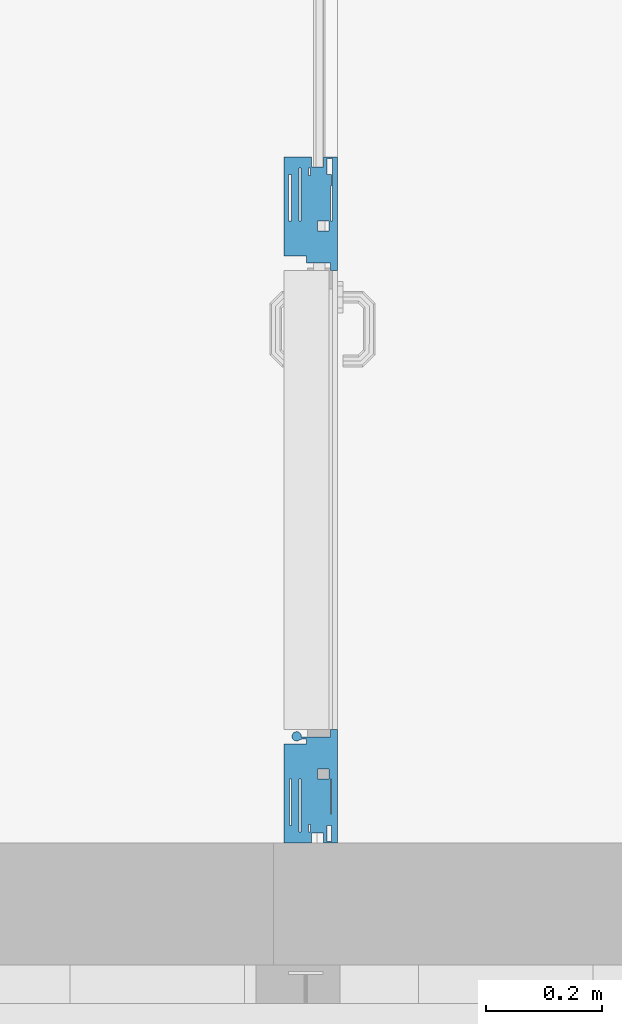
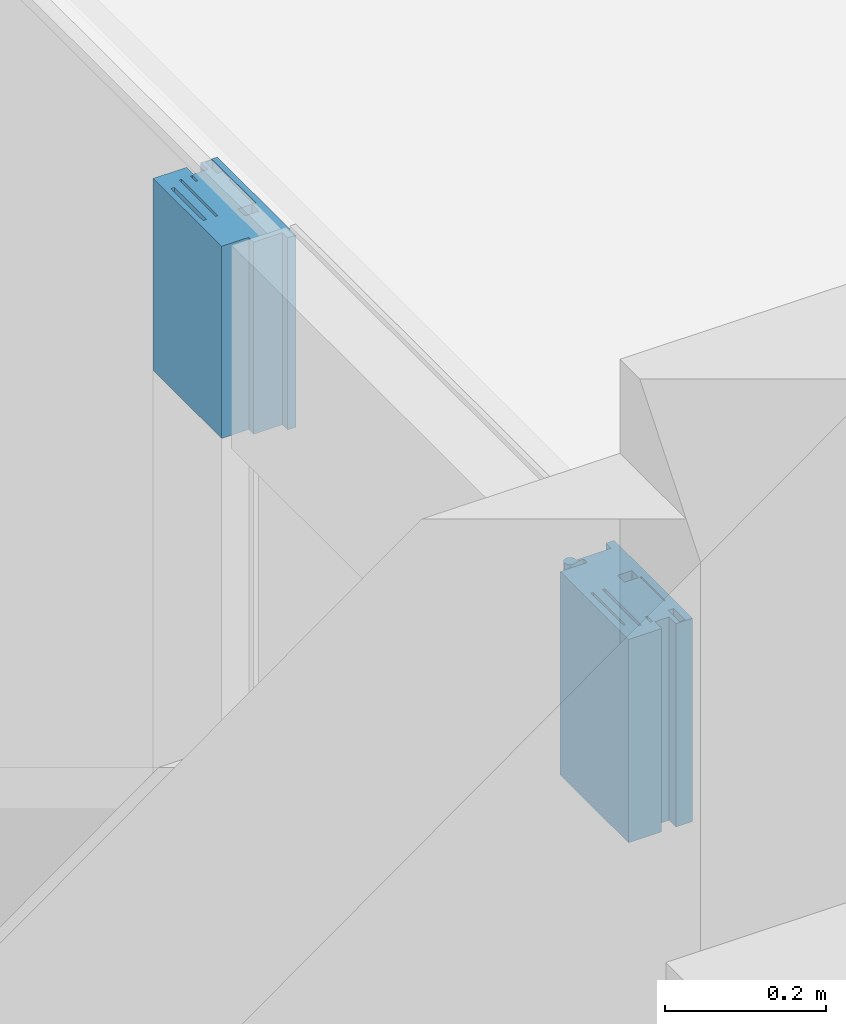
# One storey, part 14 of 79: 2 members, 1 element without a shape of its own.
"""IFC2X3 building model written with IfcOpenShell, lengths in millimetres."""

from ifc_helpers import new_model, entity, si_unit, converted_unit, derived_unit, money_unit, direction, frame, origin_with_axes, place, context, subcontext, project, spatial, faceted_brep, source, transform, mapped, material, material_list, type_object, element, aggregate, save


model = new_model("IFC2X3")

# Units and contexts
model_context = context("Model", 3, precision=0.01, world=origin_with_axes(), true_north=direction((0.0, 1.0)))
body_context = subcontext(model_context, "Body", "Model", "MODEL_VIEW")
ifc_project = project(units=[si_unit("LENGTHUNIT", "METRE", prefix="MILLI"), si_unit("AREAUNIT", "SQUARE_METRE"), si_unit("VOLUMEUNIT", "CUBIC_METRE"), converted_unit("PLANEANGLEUNIT", "DEGREE", entity("IfcPlaneAngleMeasure", 0.0174532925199), si_unit("PLANEANGLEUNIT", "RADIAN"), dimensions=[0, 0, 0, 0, 0, 0, 0]), si_unit("SOLIDANGLEUNIT", "STERADIAN"), money_unit("EUR"), converted_unit("TIMEUNIT", "Year", entity("IfcTimeMeasure", 31556926.0), si_unit("TIMEUNIT", "SECOND"), dimensions=[0, 0, 1, 0, 0, 0, 0]), si_unit("MASSUNIT", "GRAM", prefix="KILO"), si_unit("THERMODYNAMICTEMPERATUREUNIT", "DEGREE_CELSIUS"), si_unit("LUMINOUSINTENSITYUNIT", "LUMEN"), si_unit("ENERGYUNIT", "JOULE", prefix="MEGA"), derived_unit("THERMALCONDUCTANCEUNIT", [(si_unit("POWERUNIT", "WATT"), 1), (si_unit("LENGTHUNIT", "METRE"), -1), (si_unit("THERMODYNAMICTEMPERATUREUNIT", "KELVIN"), -1)]), derived_unit("SPECIFICHEATCAPACITYUNIT", [(si_unit("ENERGYUNIT", "JOULE"), 1), (si_unit("MASSUNIT", "GRAM", prefix="KILO"), -1), (si_unit("THERMODYNAMICTEMPERATUREUNIT", "KELVIN"), -1)]), derived_unit("MASSDENSITYUNIT", [(si_unit("MASSUNIT", "GRAM", prefix="KILO"), 1), (si_unit("VOLUMEUNIT", "CUBIC_METRE"), -1)])], contexts=[model_context])

# Site, building, storey
site_placement = place(None, origin_with_axes())
site = spatial("IfcSite", under=ifc_project, at=site_placement, Name="L.Koidula tn 11b", CompositionType="ELEMENT")
building_placement = place(site_placement, origin_with_axes())
building = spatial("IfcBuilding", under=site, at=building_placement, Name="Rakvere Riigigümnaasium", CompositionType="ELEMENT")
storey_placement = place(building_placement, frame((0.0, 0.0, 3720.0), z_axis=(0.0, 0.0, 1.0), x_axis=(1.0, 0.0, 0.0)))
storey = spatial("IfcBuildingStorey", under=building, at=storey_placement, Name="2.korrus +3,72", CompositionType="ELEMENT", Elevation=3720.0)

# Curtain wall, members
curtain_wall_type = type_object("IfcCurtainWallType", Name="Curtain Wall Type", PredefinedType="NOTDEFINED")
curtain_wall_placement = place(storey_placement, frame((41130.915445, 17840.4555248, 2.4134225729e-05), z_axis=(0.0, 0.0, 1.0), x_axis=(1.0, 0.0, 0.0)))
curtain_wall = element("IfcCurtainWall", 1, at=curtain_wall_placement, inside=storey, type_object=curtain_wall_type, Name="SKLF-12")
ifc_material_1 = material(Name="Puit")
ifc_material_2 = material(Name="Klaasvill")
ifc_material_3 = material(Name="MDF")
ifc_material_4 = material(Name="Alumiiniumprofiil")
ifc_material_5 = material(Name="Teras")
ifc_material_list_1 = material_list([ifc_material_1, ifc_material_2, ifc_material_3, ifc_material_4, ifc_material_5])
member_type_1 = type_object("IfcMemberType", Name="Siseklaasfassaad - Ukseraam hing- klaasita-2 195 x 29", PredefinedType="MULLION")
shared_shape_1 = source(origin_with_axes(), body_context, "Body", "Brep", [
    faceted_brep([(139.859682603, -15.116905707, 0.0), (181.717061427, -15.116905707, 0.0), (181.717061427, -15.116905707, 308.0), (139.859682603, -15.116905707, 308.0), (139.859682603, 50.9999990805, 0.0), (169.859682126, 50.9999990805, 0.0), (169.859683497, 23.9999989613, 0.0), (178.395629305, 23.9999989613, 0.0), (178.395629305, -8.00000062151, 0.0), (181.855103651, -8.00000062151, 0.0), (181.855103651, -15.116905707, 0.0), (181.855103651, -15.116905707, 308.0), (181.855103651, -8.00000062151, 308.0), (178.395629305, -8.00000062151, 308.0), (178.395629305, 23.9999989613, 308.0), (169.859683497, 23.9999989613, 308.0), (169.859682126, 50.9999990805, 308.0), (139.859682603, 50.9999990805, 308.0)], [[[0, 1, 2, 3]], [[0, 4, 5, 6, 7, 8, 9, 10, 1]], [[1, 10, 11, 2]], [[3, 2, 11, 12, 13, 14, 15, 16, 17]], [[4, 0, 3, 17]], [[5, 4, 17, 16]], [[6, 5, 16, 15]], [[7, 6, 15, 14]], [[8, 7, 14, 13]], [[9, 8, 13, 12]], [[10, 9, 12, 11]]]),
    faceted_brep([(31.9999999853, 20.4981590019, 0.0), (31.9999999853, 17.3999984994, 0.0), (31.9999999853, 17.3999984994, 308.0), (31.9999999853, 20.4981590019, 308.0), (109.856776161, 20.498157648, 0.0), (109.856777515, 5.39999855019, 0.0), (109.856777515, -15.0000008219, 0.0), (109.856777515, -16.9999999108, 0.0), (50.0000012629, -17.0000026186, 0.0), (31.9999999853, -16.9999999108, 0.0), (31.9999999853, -10.9998686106, 0.0), (31.9999999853, -4.99999996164, 0.0), (31.9999999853, -4.99999996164, 308.0), (31.9999999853, -10.9998686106, 308.0), (31.9999999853, -16.9999999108, 308.0), (50.0000012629, -17.0000026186, 308.0), (109.856777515, -16.9999999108, 308.0), (109.856777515, -15.0000008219, 308.0), (109.856777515, 5.39999855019, 308.0), (109.856776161, 20.498157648, 308.0)], [[[0, 1, 2, 3]], [[0, 4, 5, 6, 7, 8, 9, 10, 11, 1]], [[1, 11, 12, 2]], [[3, 2, 12, 13, 14, 15, 16, 17, 18, 19]], [[4, 0, 3, 19]], [[5, 4, 19, 18]], [[6, 5, 18, 17]], [[7, 6, 17, 16]], [[8, 7, 16, 15]], [[9, 8, 15, 14]], [[10, 9, 14, 13]], [[11, 10, 13, 12]]]),
    faceted_brep([(2.00000016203, -18.9999768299, 0.0), (2.00000016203, -28.9999775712, 0.0), (2.00000016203, -28.9999775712, 308.0), (2.00000016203, -18.9999768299, 308.0), (29.9999993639, -18.9999998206, 0.0), (31.9999995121, -18.9999998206, 0.0), (50.0000008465, -18.9999998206, 0.0), (109.856776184, -18.9999797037, 0.0), (192.859682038, -18.9999768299, 0.0), (192.859682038, -28.9999775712, 0.0), (192.859682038, -28.9999775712, 308.0), (192.859682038, -18.9999768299, 308.0), (109.856776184, -18.9999797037, 308.0), (50.0000008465, -18.9999998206, 308.0), (31.9999995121, -18.9999998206, 308.0), (29.9999993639, -18.9999998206, 308.0)], [[[0, 1, 2, 3]], [[0, 4, 5, 6, 7, 8, 9, 1]], [[1, 9, 10, 2]], [[3, 2, 10, 11, 12, 13, 14, 15]], [[4, 0, 3, 15]], [[5, 4, 15, 14]], [[6, 5, 14, 13]], [[7, 6, 13, 12]], [[8, 7, 12, 11]], [[9, 8, 11, 10]]]),
    faceted_brep([(167.859682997, 63.0000007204, 0.0), (1.99999972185, 62.9999978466, 0.0), (1.99999972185, 62.9999978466, 308.0), (167.859682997, 63.0000007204, 308.0), (167.859682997, 52.9999999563, 0.0), (139.859683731, 52.9999999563, 0.0), (109.85677599, 52.9999999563, 0.0), (29.9999989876, 52.9999970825, 0.0), (18.6712801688, 52.9999970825, 0.0), (1.99999972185, 52.9999999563, 0.0), (1.99999972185, 52.9999999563, 308.0), (18.6712801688, 52.9999970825, 308.0), (29.9999989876, 52.9999970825, 308.0), (109.85677599, 52.9999999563, 308.0), (139.859683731, 52.9999999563, 308.0), (167.859682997, 52.9999999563, 308.0)], [[[0, 1, 2, 3]], [[0, 4, 5, 6, 7, 8, 9, 1]], [[1, 9, 10, 2]], [[3, 2, 10, 11, 12, 13, 14, 15]], [[4, 0, 3, 15]], [[5, 4, 15, 14]], [[6, 5, 14, 13]], [[7, 6, 13, 12]], [[8, 7, 12, 11]], [[9, 8, 11, 10]]]),
    faceted_brep([(18.9999998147, 33.492630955, 0.0), (18.9999998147, 20.5001075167, 0.0), (18.9999998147, 20.5001075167, 308.0), (18.9999998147, 33.492630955, 308.0), (109.856776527, 33.4906812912, 0.0), (109.856776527, 20.4981578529, 0.0), (31.9999999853, 20.4981590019, 0.0), (31.9999999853, 20.4981590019, 308.0), (109.856776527, 20.4981578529, 308.0), (109.856776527, 33.4906812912, 308.0)], [[[0, 1, 2, 3]], [[0, 4, 5, 6, 1]], [[1, 6, 7, 2]], [[3, 2, 7, 8, 9]], [[4, 0, 3, 9]], [[5, 4, 9, 8]], [[6, 5, 8, 7]]]),
    faceted_brep([(109.854989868, 49.9999988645, 0.0), (19.0000000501, 50.0001085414, 0.0), (19.0000000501, 50.0001085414, 308.0), (109.854989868, 49.9999988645, 308.0), (109.854989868, 36.9999990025, 0.0), (19.0000000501, 37.0001070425, 0.0), (19.0000000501, 37.0001070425, 308.0), (109.854989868, 36.9999990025, 308.0)], [[[0, 1, 2, 3]], [[0, 4, 5, 1]], [[1, 5, 6, 2]], [[3, 2, 6, 7]], [[4, 0, 3, 7]], [[5, 4, 7, 6]]]),
    faceted_brep([(109.856776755, 52.9999991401, 0.0), (109.854989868, 49.9999988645, 0.0), (109.854989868, 49.9999988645, 308.0), (109.856776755, 52.9999991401, 308.0), (139.859682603, 52.9999991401, 0.0), (167.859682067, 52.9999991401, 0.0), (167.859682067, 62.9999994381, 0.0), (169.859682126, 62.9999994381, 0.0), (169.859682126, 54.9999991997, 0.0), (169.859682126, 50.9999990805, 0.0), (139.859682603, 50.9999990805, 0.0), (139.859682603, -15.116905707, 0.0), (181.717061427, -15.116905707, 0.0), (181.717061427, -17.0000002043, 0.0), (194.859682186, -17.0000002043, 0.0), (194.859682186, -20.0740464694, 0.0), (194.859682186, -29.0000005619, 0.0), (192.859683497, -29.0000005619, 0.0), (192.859683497, -18.9999783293, 0.0), (109.856776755, -18.9999783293, 0.0), (109.856777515, -16.9999999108, 0.0), (109.856776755, -15.0000001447, 0.0), (126.859682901, -15.0000001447, 0.0), (126.859682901, 5.39999991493, 0.0), (109.856776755, 5.39999991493, 0.0), (109.856776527, 20.4981578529, 0.0), (109.856776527, 33.4906812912, 0.0), (109.854989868, 36.9999990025, 0.0), (109.854989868, 36.9999990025, 308.0), (109.856776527, 33.4906812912, 308.0), (109.856776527, 20.4981578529, 308.0), (109.856776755, 5.39999991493, 308.0), (126.859682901, 5.39999991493, 308.0), (126.859682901, -15.0000001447, 308.0), (109.856776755, -15.0000001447, 308.0), (109.856777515, -16.9999999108, 308.0), (109.856776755, -18.9999783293, 308.0), (192.859683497, -18.9999783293, 308.0), (192.859683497, -29.0000005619, 308.0), (194.859682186, -29.0000005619, 308.0), (194.859682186, -20.0740464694, 308.0), (194.859682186, -17.0000002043, 308.0), (181.717061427, -17.0000002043, 308.0), (181.717061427, -15.116905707, 308.0), (139.859682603, -15.116905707, 308.0), (139.859682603, 50.9999990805, 308.0), (169.859682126, 50.9999990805, 308.0), (169.859682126, 54.9999991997, 308.0), (169.859682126, 62.9999994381, 308.0), (167.859682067, 62.9999994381, 308.0), (167.859682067, 52.9999991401, 308.0), (139.859682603, 52.9999991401, 308.0)], [[[0, 1, 2, 3]], [[0, 4, 5, 6, 7, 8, 9, 10, 11, 12, 13, 14, 15, 16, 17, 18, 19, 20, 21, 22, 23, 24, 25, 26, 27, 1]], [[1, 27, 28, 2]], [[3, 2, 28, 29, 30, 31, 32, 33, 34, 35, 36, 37, 38, 39, 40, 41, 42, 43, 44, 45, 46, 47, 48, 49, 50, 51]], [[4, 0, 3, 51]], [[5, 4, 51, 50]], [[6, 5, 50, 49]], [[7, 6, 49, 48]], [[8, 7, 48, 47]], [[9, 8, 47, 46]], [[10, 9, 46, 45]], [[11, 10, 45, 44]], [[12, 11, 44, 43]], [[13, 12, 43, 42]], [[14, 13, 42, 41]], [[15, 14, 41, 40]], [[16, 15, 40, 39]], [[17, 16, 39, 38]], [[18, 17, 38, 37]], [[19, 18, 37, 36]], [[20, 19, 36, 35]], [[21, 20, 35, 34]], [[22, 21, 34, 33]], [[23, 22, 33, 32]], [[24, 23, 32, 31]], [[25, 24, 31, 30]], [[26, 25, 30, 29]], [[27, 26, 29, 28]]]),
    faceted_brep([(0.0, 62.9999994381, 0.0), (0.0, 15.3999992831, 0.0), (0.0, 15.3999992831, 308.0), (0.0, 62.9999994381, 308.0), (1.99999958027, 62.9999994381, 0.0), (2.00000095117, 52.999998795, 0.0), (18.6712817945, 52.999998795, 0.0), (29.9999991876, 52.999998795, 0.0), (29.9999991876, 50.0001084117, 0.0), (19.0000008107, 50.0001084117, 0.0), (19.0000000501, 37.0001070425, 0.0), (18.9999998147, 33.492630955, 0.0), (18.9999998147, 20.5001075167, 0.0), (19.0000008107, 17.3999988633, 0.0), (32.0000001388, 17.3999988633, 0.0), (32.0000001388, -5.0, 0.0), (32.0000001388, -10.9998685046, 0.0), (32.0000001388, -17.0000015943, 0.0), (50.0000004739, -17.0000015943, 0.0), (50.0000004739, -18.9999998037, 0.0), (32.0000001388, -18.9999998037, 0.0), (30.0000005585, -18.9999998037, 0.0), (30.0000005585, -17.0000015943, 0.0), (30.0000005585, -10.9998685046, 0.0), (2.00000095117, -10.9998685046, 0.0), (2.00000016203, -18.9999768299, 0.0), (2.00000095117, -28.9999785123, 0.0), (0.0, -28.9999785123, 0.0), (0.0, -5.0, 0.0), (2.00000095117, -5.0, 0.0), (16.9999998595, -5.0, 0.0), (16.9999998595, 15.3999992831, 0.0), (16.9999998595, 15.3999992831, 308.0), (16.9999998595, -5.0, 308.0), (2.00000095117, -5.0, 308.0), (0.0, -5.0, 308.0), (0.0, -28.9999785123, 308.0), (2.00000095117, -28.9999785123, 308.0), (2.00000016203, -18.9999768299, 308.0), (2.00000095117, -10.9998685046, 308.0), (30.0000005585, -10.9998685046, 308.0), (30.0000005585, -17.0000015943, 308.0), (30.0000005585, -18.9999998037, 308.0), (32.0000001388, -18.9999998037, 308.0), (50.0000004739, -18.9999998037, 308.0), (50.0000004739, -17.0000015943, 308.0), (32.0000001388, -17.0000015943, 308.0), (32.0000001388, -10.9998685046, 308.0), (32.0000001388, -5.0, 308.0), (32.0000001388, 17.3999988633, 308.0), (19.0000008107, 17.3999988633, 308.0), (18.9999998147, 20.5001075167, 308.0), (18.9999998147, 33.492630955, 308.0), (19.0000000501, 37.0001070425, 308.0), (19.0000008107, 50.0001084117, 308.0), (29.9999991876, 50.0001084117, 308.0), (29.9999991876, 52.999998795, 308.0), (18.6712817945, 52.999998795, 308.0), (2.00000095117, 52.999998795, 308.0), (1.99999958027, 62.9999994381, 308.0)], [[[0, 1, 2, 3]], [[0, 4, 5, 6, 7, 8, 9, 10, 11, 12, 13, 14, 15, 16, 17, 18, 19, 20, 21, 22, 23, 24, 25, 26, 27, 28, 29, 30, 31, 1]], [[1, 31, 32, 2]], [[3, 2, 32, 33, 34, 35, 36, 37, 38, 39, 40, 41, 42, 43, 44, 45, 46, 47, 48, 49, 50, 51, 52, 53, 54, 55, 56, 57, 58, 59]], [[4, 0, 3, 59]], [[5, 4, 59, 58]], [[6, 5, 58, 57]], [[7, 6, 57, 56]], [[8, 7, 56, 55]], [[9, 8, 55, 54]], [[10, 9, 54, 53]], [[11, 10, 53, 52]], [[12, 11, 52, 51]], [[13, 12, 51, 50]], [[14, 13, 50, 49]], [[15, 14, 49, 48]], [[16, 15, 48, 47]], [[17, 16, 47, 46]], [[18, 17, 46, 45]], [[19, 18, 45, 44]], [[20, 19, 44, 43]], [[21, 20, 43, 42]], [[22, 21, 42, 41]], [[23, 22, 41, 40]], [[24, 23, 40, 39]], [[25, 24, 39, 38]], [[26, 25, 38, 37]], [[27, 26, 37, 36]], [[28, 27, 36, 35]], [[29, 28, 35, 34]], [[30, 29, 34, 33]], [[31, 30, 33, 32]]]),
    faceted_brep([(191.287294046, 42.0314837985, 0.0), (189.304437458, 46.4929115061, 0.0), (189.304437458, 46.4929115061, 308.0), (191.287294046, 42.0314837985, 308.0), (191.287294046, 39.5529134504, 0.0), (190.543723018, 37.0712444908, 0.0), (188.808723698, 35.0883879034, 0.0), (186.82586711, 33.6012450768, 0.0), (184.34729599, 32.8576740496, 0.0), (181.86562703, 33.1055313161, 0.0), (181.658588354, 33.5817206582, 0.0), (181.86562703, 32.1141030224, 0.0), (181.855103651, -8.00000062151, 0.0), (178.395628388, -8.00000056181, 0.0), (178.395629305, 23.9999989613, 0.0), (178.395628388, 31.1195761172, 0.0), (178.147771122, 33.1055313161, 0.0), (177.404200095, 34.840530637, 0.0), (176.164914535, 37.3221995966, 0.0), (175.421343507, 39.7976721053, 0.0), (175.421343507, 42.279341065, 0.0), (176.164914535, 44.7579114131, 0.0), (177.652057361, 46.7407680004, 0.0), (179.882770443, 48.227910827, 0.0), (182.364439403, 48.9714818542, 0.0), (184.843010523, 48.9714818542, 0.0), (187.073723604, 47.9800535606, 0.0), (187.073723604, 47.9800535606, 308.0), (184.843010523, 48.9714818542, 308.0), (182.364439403, 48.9714818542, 308.0), (179.882770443, 48.227910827, 308.0), (177.652057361, 46.7407680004, 308.0), (176.164914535, 44.7579114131, 308.0), (175.421343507, 42.279341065, 308.0), (175.421343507, 39.7976721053, 308.0), (176.164914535, 37.3221995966, 308.0), (177.404200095, 34.840530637, 308.0), (178.147771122, 33.1055313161, 308.0), (178.395628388, 31.1195761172, 308.0), (178.395629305, 23.9999989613, 308.0), (178.395628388, -8.00000056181, 308.0), (181.855103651, -8.00000062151, 308.0), (181.86562703, 32.1141030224, 308.0), (181.658588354, 33.5817206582, 308.0), (181.86562703, 33.1055313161, 308.0), (184.34729599, 32.8576740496, 308.0), (186.82586711, 33.6012450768, 308.0), (188.808723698, 35.0883879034, 308.0), (190.543723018, 37.0712444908, 308.0), (191.287294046, 39.5529134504, 308.0)], [[[0, 1, 2, 3]], [[0, 4, 5, 6, 7, 8, 9, 10, 11, 12, 13, 14, 15, 16, 17, 18, 19, 20, 21, 22, 23, 24, 25, 26, 1]], [[1, 26, 27, 2]], [[3, 2, 27, 28, 29, 30, 31, 32, 33, 34, 35, 36, 37, 38, 39, 40, 41, 42, 43, 44, 45, 46, 47, 48, 49]], [[4, 0, 3, 49]], [[5, 4, 49, 48]], [[6, 5, 48, 47]], [[7, 6, 47, 46]], [[8, 7, 46, 45]], [[9, 8, 45, 44]], [[10, 9, 44, 43]], [[11, 10, 43, 42]], [[12, 11, 42, 41]], [[13, 12, 41, 40]], [[14, 13, 40, 39]], [[15, 14, 39, 38]], [[16, 15, 38, 37]], [[17, 16, 37, 36]], [[18, 17, 36, 35]], [[19, 18, 35, 34]], [[20, 19, 34, 33]], [[21, 20, 33, 32]], [[22, 21, 32, 31]], [[23, 22, 31, 30]], [[24, 23, 30, 29]], [[25, 24, 29, 28]], [[26, 25, 28, 27]]]),
])
member_1_placement = place(curtain_wall_placement, frame((-0.0219112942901, -519.999999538, 2199.99997587), z_axis=(0.0, 0.0, 1.0), x_axis=(-4.21371043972e-05, -0.999999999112, 0.0)))
member_1 = element("IfcMember", 2, at=member_1_placement, type_object=member_type_1, material=ifc_material_list_1, Name="Frame-Siseklaasf-001", ObjectType="MULLION", context=body_context, shape_type="MappedRepresentation", body=[
    mapped(shared_shape_1, transform((0.0, 0.0, 0.0), x_axis=(-1.0, 0.0, 0.0), y_axis=(0.0, -1.0, 0.0), z_axis=(0.0, 0.0, 1.0))),
])
ifc_material_list_2 = material_list([ifc_material_1, ifc_material_3, ifc_material_2, ifc_material_4])
member_type_2 = type_object("IfcMemberType", Name="Siseklaasfassaad - Ukseraam-2 195 x 29", PredefinedType="MULLION")
shared_shape_2 = source(origin_with_axes(), body_context, "Body", "Brep", [
    faceted_brep([(0.0, 50.8404412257, 0.0), (0.0, 50.8404412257, 290.999980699), (0.0, -15.2764635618, 290.999980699), (0.0, -15.2764635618, 0.0), (-29.9999995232, 50.8404412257, 0.0), (-29.9999995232, 50.8404412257, 290.999980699), (-30.0000008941, 23.8404411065, 290.999980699), (-41.9954210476, 23.8404411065, 290.999980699), (-41.9954210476, -8.15955847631, 290.999980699), (-41.9954210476, -15.2764635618, 290.999980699), (-41.8573788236, -15.2764635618, 290.999980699), (-41.8573788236, -15.2764635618, 0.0), (-41.9954210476, -15.2764635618, 0.0), (-41.9954210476, -8.15955847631, 0.0), (-41.9954210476, 23.8404411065, 0.0), (-30.0000008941, 23.8404411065, 0.0)], [[[0, 1, 2, 3]], [[4, 5, 1, 0]], [[1, 5, 6, 7, 8, 9, 10, 2]], [[3, 2, 10, 11]], [[0, 3, 11, 12, 13, 14, 15, 4]], [[15, 6, 5, 4]], [[14, 7, 6, 15]], [[13, 8, 7, 14]], [[12, 9, 8, 13]], [[11, 10, 9, 12]]]),
    faceted_brep([(137.859682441, -21.159534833, 0.0), (137.859682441, -21.159534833, 290.999980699), (137.859682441, -29.159535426, 290.999980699), (137.859682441, -29.159535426, 0.0), (30.0029064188, -21.1595377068, 0.0), (30.0029064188, -21.1595377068, 290.999980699), (-52.9999994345, -21.1595377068, 290.999980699), (-52.9999994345, -29.1595584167, 290.999980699), (-52.9999994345, -29.1595584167, 0.0), (-52.9999994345, -21.1595377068, 0.0)], [[[0, 1, 2, 3]], [[4, 5, 1, 0]], [[1, 5, 6, 7, 2]], [[3, 2, 7, 8]], [[0, 3, 8, 9, 4]], [[9, 6, 5, 4]], [[8, 7, 6, 9]]]),
    faceted_brep([(137.859682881, 54.8404422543, 0.0), (137.859682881, 54.8404422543, 290.999980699), (121.188402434, 54.8405744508, 290.999980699), (121.188402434, 54.8405744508, 0.0), (137.859682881, 62.8404399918, 0.0), (137.859682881, 62.8404399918, 290.999980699), (-28.0000003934, 62.8404428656, 290.999980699), (-28.0000003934, 54.8404422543, 290.999980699), (-1.12771575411e-06, 54.8404422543, 290.999980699), (30.0029066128, 54.8404422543, 290.999980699), (109.859683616, 54.8405744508, 290.999980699), (109.859683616, 54.8405744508, 0.0), (30.0029066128, 54.8404422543, 0.0), (-1.12771575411e-06, 54.8404422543, 0.0), (-28.0000003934, 54.8404422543, 0.0), (-28.0000003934, 62.8404428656, 0.0)], [[[0, 1, 2, 3]], [[4, 5, 1, 0]], [[1, 5, 6, 7, 8, 9, 10, 2]], [[3, 2, 10, 11]], [[0, 3, 11, 12, 13, 14, 15, 4]], [[15, 6, 5, 4]], [[14, 7, 6, 15]], [[13, 8, 7, 14]], [[12, 9, 8, 13]], [[11, 10, 9, 12]]]),
    faceted_brep([(120.859682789, 33.3330734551, 0.0), (120.859682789, 33.3330734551, 290.999980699), (120.859682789, 20.34054937, 290.999980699), (120.859682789, 20.34054937, 0.0), (30.0029064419, 33.3311238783, 0.0), (30.0029064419, 33.3311238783, 290.999980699), (30.0029050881, 20.3386011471, 290.999980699), (107.859682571, 20.338601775, 290.999980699), (107.859682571, 20.338601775, 0.0), (30.0029050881, 20.3386011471, 0.0)], [[[0, 1, 2, 3]], [[4, 5, 1, 0]], [[1, 5, 6, 7, 2]], [[3, 2, 7, 8]], [[0, 3, 8, 9, 4]], [[9, 6, 5, 4]], [[8, 7, 6, 9]]]),
    faceted_brep([(120.859682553, 49.8405506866, 0.0), (120.859682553, 49.8405506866, 290.999980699), (120.859682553, 36.8405491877, 290.999980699), (120.859682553, 36.8405491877, 0.0), (109.8596833, 49.8405506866, 0.0), (109.8596833, 49.8405506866, 290.999980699), (30.0046927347, 49.8404410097, 290.999980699), (30.0046927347, 36.8404411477, 290.999980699), (30.0046927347, 36.8404411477, 0.0), (30.0046927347, 49.8404410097, 0.0)], [[[0, 1, 2, 3]], [[4, 5, 1, 0]], [[1, 5, 6, 7, 2]], [[3, 2, 7, 8]], [[0, 3, 8, 9, 4]], [[9, 6, 5, 4]], [[8, 7, 6, 9]]]),
    faceted_brep([(107.859682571, 20.338601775, 0.0), (107.859682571, 20.338601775, 290.999980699), (107.859682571, -5.15955767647, 290.999980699), (107.859682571, -5.15955767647, 0.0), (30.0029050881, 20.338601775, 0.0), (30.0029050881, 20.338601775, 290.999980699), (30.0029050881, 5.24044086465, 290.999980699), (30.0029050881, -15.1595587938, 290.999980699), (30.0029050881, -17.1595580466, 290.999980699), (89.8596820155, -17.1595604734, 290.999980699), (107.859682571, -17.1595604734, 290.999980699), (107.859682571, -11.1594268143, 290.999980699), (107.859682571, -11.1594268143, 0.0), (107.859682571, -17.1595604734, 0.0), (89.8596820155, -17.1595604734, 0.0), (30.0029050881, -17.1595580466, 0.0), (30.0029050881, -15.1595587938, 0.0), (30.0029050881, 5.24044086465, 0.0)], [[[0, 1, 2, 3]], [[4, 5, 1, 0]], [[1, 5, 6, 7, 8, 9, 10, 11, 2]], [[3, 2, 11, 12]], [[0, 3, 12, 13, 14, 15, 16, 17, 4]], [[17, 6, 5, 4]], [[16, 7, 6, 17]], [[15, 8, 7, 16]], [[14, 9, 8, 15]], [[13, 10, 9, 14]], [[12, 11, 10, 13]]]),
    faceted_brep([(30.0029058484, 54.8404413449, 0.0), (30.0029058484, 54.8404413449, 290.999980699), (30.0046927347, 49.8404410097, 290.999980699), (30.0046927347, 49.8404410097, 0.0), (0.0, 54.8404413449, 0.0), (0.0, 54.8404413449, 290.999980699), (-27.9999994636, 54.8404413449, 290.999980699), (-27.9999994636, 62.8404415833, 290.999980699), (-29.9999995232, 62.8404415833, 290.999980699), (-29.9999995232, 54.8404413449, 290.999980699), (-29.9999995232, 50.8404412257, 290.999980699), (0.0, 50.8404412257, 290.999980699), (0.0, -15.2764635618, 290.999980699), (-41.8573788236, -15.2764635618, 290.999980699), (-41.8573788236, -17.1595580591, 290.999980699), (-54.9999995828, -17.1595580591, 290.999980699), (-54.9999995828, -20.2336043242, 290.999980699), (-54.9999995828, -29.1595584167, 290.999980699), (-53.0000007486, -29.1595584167, 290.999980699), (-53.0000007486, -21.1595363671, 290.999980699), (30.0029058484, -21.1595363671, 290.999980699), (30.0029050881, -17.1595580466, 290.999980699), (30.0029058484, -15.1595579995, 290.999980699), (12.999999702, -15.1595579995, 290.999980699), (12.999999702, 5.24044206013, 290.999980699), (30.0029058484, 5.24044206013, 290.999980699), (30.0029050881, 20.3386011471, 290.999980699), (30.0029064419, 33.3311238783, 290.999980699), (30.0046927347, 36.8404411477, 290.999980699), (30.0046927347, 36.8404411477, 0.0), (30.0029064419, 33.3311238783, 0.0), (30.0029050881, 20.3386011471, 0.0), (30.0029058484, 5.24044206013, 0.0), (12.999999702, 5.24044206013, 0.0), (12.999999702, -15.1595579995, 0.0), (30.0029058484, -15.1595579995, 0.0), (30.0029050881, -17.1595580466, 0.0), (30.0029058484, -21.1595363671, 0.0), (-53.0000007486, -21.1595363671, 0.0), (-53.0000007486, -29.1595584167, 0.0), (-54.9999995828, -29.1595584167, 0.0), (-54.9999995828, -20.2336043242, 0.0), (-54.9999995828, -17.1595580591, 0.0), (-41.8573788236, -17.1595580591, 0.0), (-41.8573788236, -15.2764635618, 0.0), (0.0, -15.2764635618, 0.0), (0.0, 50.8404412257, 0.0), (-29.9999995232, 50.8404412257, 0.0), (-29.9999995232, 54.8404413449, 0.0), (-29.9999995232, 62.8404415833, 0.0), (-27.9999994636, 62.8404415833, 0.0), (-27.9999994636, 54.8404413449, 0.0)], [[[0, 1, 2, 3]], [[4, 5, 1, 0]], [[1, 5, 6, 7, 8, 9, 10, 11, 12, 13, 14, 15, 16, 17, 18, 19, 20, 21, 22, 23, 24, 25, 26, 27, 28, 2]], [[3, 2, 28, 29]], [[0, 3, 29, 30, 31, 32, 33, 34, 35, 36, 37, 38, 39, 40, 41, 42, 43, 44, 45, 46, 47, 48, 49, 50, 51, 4]], [[51, 6, 5, 4]], [[50, 7, 6, 51]], [[49, 8, 7, 50]], [[48, 9, 8, 49]], [[47, 10, 9, 48]], [[46, 11, 10, 47]], [[45, 12, 11, 46]], [[44, 13, 12, 45]], [[43, 14, 13, 44]], [[42, 15, 14, 43]], [[41, 16, 15, 42]], [[40, 17, 16, 41]], [[39, 18, 17, 40]], [[38, 19, 18, 39]], [[37, 20, 19, 38]], [[36, 21, 20, 37]], [[35, 22, 21, 36]], [[34, 23, 22, 35]], [[33, 24, 23, 34]], [[32, 25, 24, 33]], [[31, 26, 25, 32]], [[30, 27, 26, 31]], [[29, 28, 27, 30]]]),
    faceted_brep([(139.859682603, 62.8404415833, 0.0), (139.859682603, 62.8404415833, 290.999980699), (139.859682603, 15.2404414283, 290.999980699), (139.859682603, 15.2404414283, 0.0), (137.859683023, 62.8404415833, 0.0), (137.859683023, 62.8404415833, 290.999980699), (137.859681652, 54.8405734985, 290.999980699), (121.188400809, 54.8405734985, 290.999980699), (109.859683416, 54.8405734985, 290.999980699), (109.859683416, 53.8404414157, 290.999980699), (109.859683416, 49.8405505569, 290.999980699), (120.859681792, 49.8405505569, 290.999980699), (120.859682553, 36.8405491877, 290.999980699), (120.859682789, 33.3330734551, 290.999980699), (120.859682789, 20.34054937, 290.999980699), (120.859681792, 17.2404410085, 290.999980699), (107.859682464, 17.2404410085, 290.999980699), (107.859682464, -5.1595578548, 290.999980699), (107.859682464, -11.1594263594, 290.999980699), (107.859682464, -17.1595594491, 290.999980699), (89.8596821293, -17.1595594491, 290.999980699), (89.8596821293, -19.1595576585, 290.999980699), (107.859682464, -19.1595576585, 290.999980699), (109.859682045, -19.1595576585, 290.999980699), (109.859682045, -17.1595594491, 290.999980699), (109.859682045, -11.1594263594, 290.999980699), (137.859681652, -11.1594263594, 290.999980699), (137.859682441, -21.159534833, 290.999980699), (137.859681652, -29.1595363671, 290.999980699), (139.859682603, -29.1595363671, 290.999980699), (139.859682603, -5.1595578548, 290.999980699), (137.859681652, -5.1595578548, 290.999980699), (122.859682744, -5.1595578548, 290.999980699), (122.859682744, 15.2404414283, 290.999980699), (122.859682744, 15.2404414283, 0.0), (122.859682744, -5.1595578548, 0.0), (137.859681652, -5.1595578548, 0.0), (139.859682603, -5.1595578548, 0.0), (139.859682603, -29.1595363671, 0.0), (137.859681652, -29.1595363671, 0.0), (137.859682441, -21.159534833, 0.0), (137.859681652, -11.1594263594, 0.0), (109.859682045, -11.1594263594, 0.0), (109.859682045, -17.1595594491, 0.0), (109.859682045, -19.1595576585, 0.0), (107.859682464, -19.1595576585, 0.0), (89.8596821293, -19.1595576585, 0.0), (89.8596821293, -17.1595594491, 0.0), (107.859682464, -17.1595594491, 0.0), (107.859682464, -11.1594263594, 0.0), (107.859682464, -5.1595578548, 0.0), (107.859682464, 17.2404410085, 0.0), (120.859681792, 17.2404410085, 0.0), (120.859682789, 20.34054937, 0.0), (120.859682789, 33.3330734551, 0.0), (120.859682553, 36.8405491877, 0.0), (120.859681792, 49.8405505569, 0.0), (109.859683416, 49.8405505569, 0.0), (109.859683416, 53.8404414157, 0.0), (109.859683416, 54.8405734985, 0.0), (121.188400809, 54.8405734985, 0.0), (137.859681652, 54.8405734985, 0.0)], [[[0, 1, 2, 3]], [[4, 5, 1, 0]], [[1, 5, 6, 7, 8, 9, 10, 11, 12, 13, 14, 15, 16, 17, 18, 19, 20, 21, 22, 23, 24, 25, 26, 27, 28, 29, 30, 31, 32, 33, 2]], [[3, 2, 33, 34]], [[0, 3, 34, 35, 36, 37, 38, 39, 40, 41, 42, 43, 44, 45, 46, 47, 48, 49, 50, 51, 52, 53, 54, 55, 56, 57, 58, 59, 60, 61, 4]], [[61, 6, 5, 4]], [[60, 7, 6, 61]], [[59, 8, 7, 60]], [[58, 9, 8, 59]], [[57, 10, 9, 58]], [[56, 11, 10, 57]], [[55, 12, 11, 56]], [[54, 13, 12, 55]], [[53, 14, 13, 54]], [[52, 15, 14, 53]], [[51, 16, 15, 52]], [[50, 17, 16, 51]], [[49, 18, 17, 50]], [[48, 19, 18, 49]], [[47, 20, 19, 48]], [[46, 21, 20, 47]], [[45, 22, 21, 46]], [[44, 23, 22, 45]], [[43, 24, 23, 44]], [[42, 25, 24, 43]], [[41, 26, 25, 42]], [[40, 27, 26, 41]], [[39, 28, 27, 40]], [[38, 29, 28, 39]], [[37, 30, 29, 38]], [[36, 31, 30, 37]], [[35, 32, 31, 36]], [[34, 33, 32, 35]]]),
])
member_2_placement = place(curtain_wall_placement, frame((0.021911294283, 519.999999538, 2199.99997587), z_axis=(0.0, 0.0, 1.0), x_axis=(-4.21371043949e-05, -0.999999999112, 0.0)))
member_2 = element("IfcMember", 3, at=member_2_placement, type_object=member_type_2, material=ifc_material_list_2, Name="Frame-Siseklaasf-005", ObjectType="MULLION", context=body_context, shape_type="MappedRepresentation", body=[
    mapped(shared_shape_2, transform((0.0, 0.0, 0.0), x_axis=(-1.0, 0.0, 0.0), y_axis=(0.0, -1.0, 0.0), z_axis=(0.0, 0.0, 1.0))),
])
aggregate(curtain_wall, [member_2, member_1])

save(model, "model.ifc")
